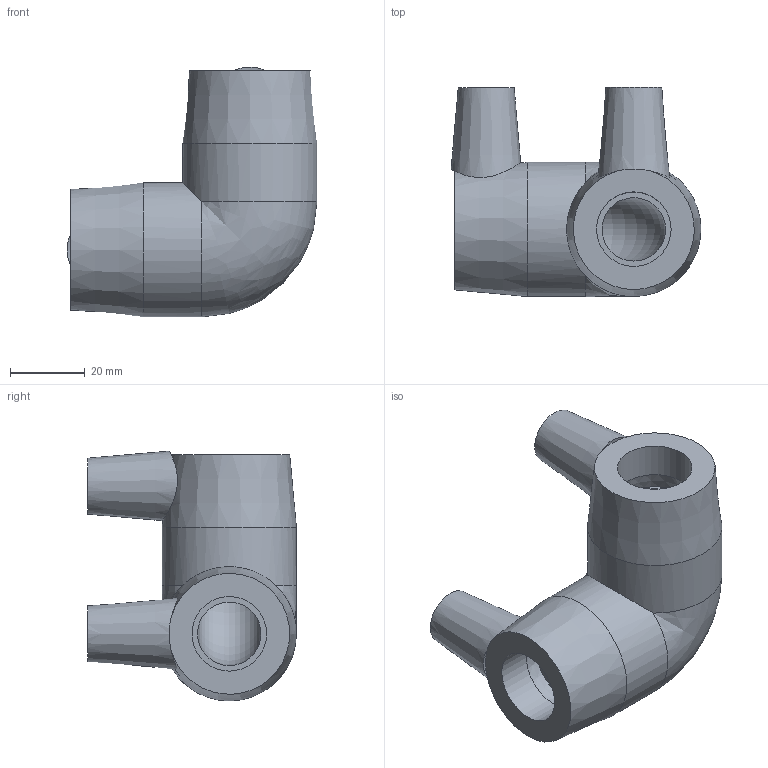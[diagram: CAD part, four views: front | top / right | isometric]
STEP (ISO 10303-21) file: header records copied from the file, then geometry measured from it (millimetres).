
FILE_DESCRIPTION(/* description */ ('PLASSON 90° ELBOW 20'),/* implementation_level */ '2;1');
FILE_NAME(/* name */ '490504020.stp',/* time_stamp */ '2026-03-22T13:14:51+02:00',/* author */ ('KIM'),/* organization */ (''),/* preprocessor_version */ 'ST-DEVELOPER v20.1',/* originating_system */ 'Autodesk Inventor 2026',/* authorisation */ '');
FILE_SCHEMA (('AUTOMOTIVE_DESIGN { 1 0 10303 214 3 1 1 }'));
Length unit declared in the file: millimetre
Products named in the file (1): 490504020
Bounding box: 67.02 x 56 x 67.02 mm (x, y, z)
Volume: 69292.4 mm3; surface area: 20193 mm2
Topology: 1 solids, 1 shells, 32 faces, 62 edges, 38 vertices
Faces by surface type: plane 12, cylinder 10, cone 8, bspline 1, torus 1
Full cylindrical faces by diameter (mm): 4 x2, 10 x2, 20 x4, 36 x2
Entity records: 953 total; most frequent: CARTESIAN_POINT 245, DIRECTION 152, ORIENTED_EDGE 120, AXIS2_PLACEMENT_3D 68, EDGE_CURVE 60, EDGE_LOOP 42, VERTEX_POINT 38, CIRCLE 35
